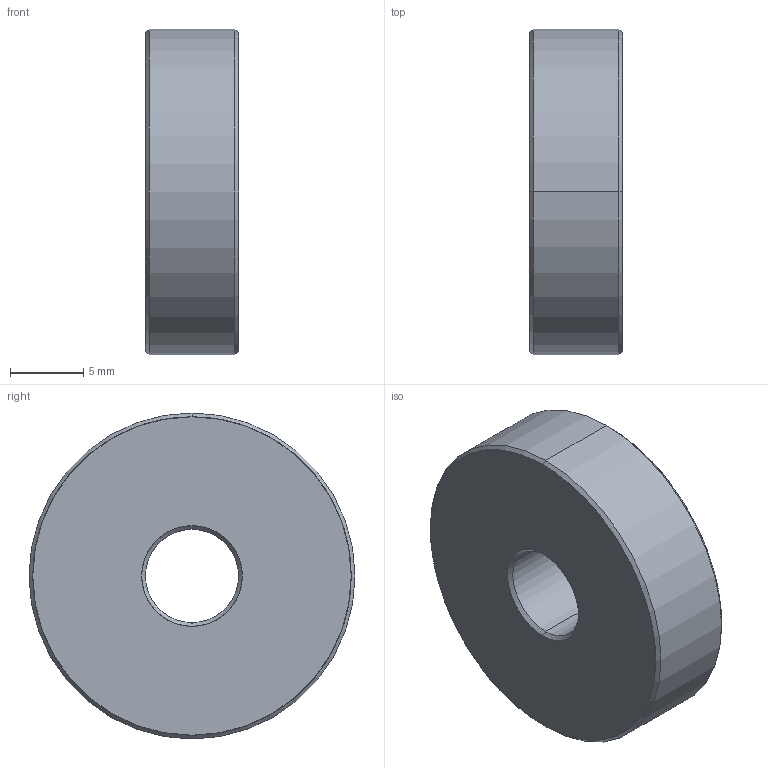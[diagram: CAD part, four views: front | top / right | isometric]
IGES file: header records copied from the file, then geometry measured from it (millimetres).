
Start section: SolidWorks IGES file using analytic representation for surfaces
Global section: file name: \\SERVER3\Design\_New Design Drive Folder List\_Design Vault\AAI\Modular Round Tube Connectors\Solidworks Models\STP Files\12202013\0.750 Inch Modular Connectors\DRP-002-0555-00.IGS; native system: SolidWorks 2013; preprocessor: SolidWorks 2013; author: tbraun; date: 131220.124121; units: inch
Bounding box: 6.35 x 22.23 x 22.23 mm (x, y, z)
Surface area: 1255.9 mm2 (no closed solid volume)
Topology: 0 solids, 0 shells, 14 faces, 176 edges, 176 vertices
Faces by surface type: revolution 12, bspline 2
